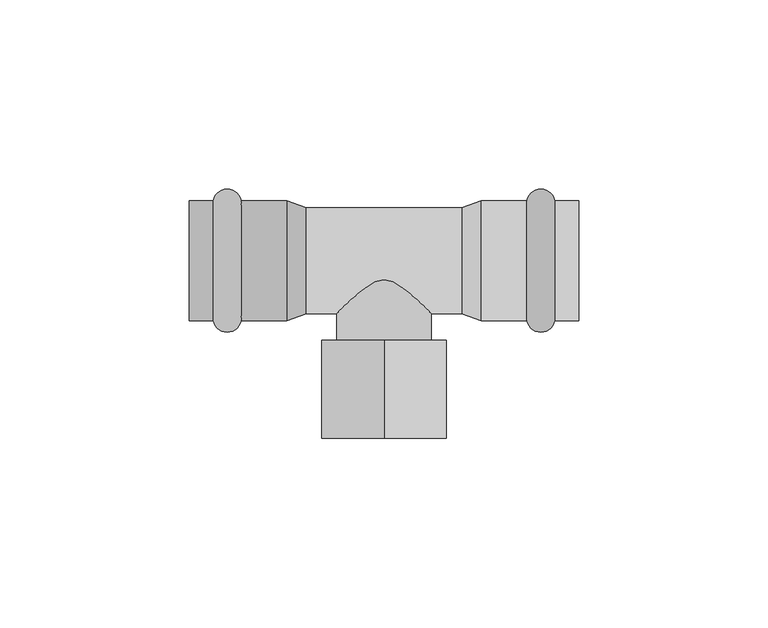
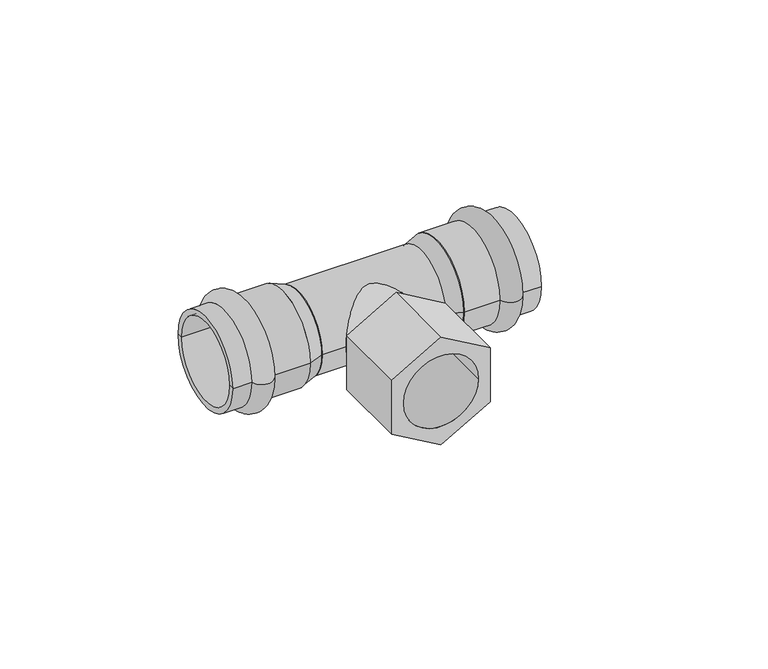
"""IFC4 building model written with IfcOpenShell, lengths in millimetres: pipe fitting geometry, VALTEC_VTi.932.I_Тройник с переходом на внутреннюю резьбу нержавеющая сталь : VTi.932.I."""

from ifc_helpers import new_model, si_unit, point, frame, origin, origin_2d, place, context, project, spatial, polyline, circle_curve, ellipse_curve, trimmed, segment, composite_curve, outline, extrude, source, transform, mapped, element, save
from ifc_brep_helpers import plane_surface, cylinder_surface, revolved_surface, advanced_brep


def pipe_fitting_f784163e(model_context):
    return source(origin(), model_context, "Body", "SolidModel", [
        advanced_brep(
        [(45.1242346, 15.9, 0.0), (45.1242346, -15.9, 0.0), (37.7757654, -15.9, 0.0), (37.7757654, 15.9, 0.0), (51.5, 15.9, 0.0), (51.5, -15.9, 0.0), (51.5, 14.0, 0.0), (51.5, -14.0, 0.0), (25.75, 14.0, 0.0), (25.75, -14.0, 0.0), (25.75, 15.9, 0.0), (25.75, -15.9, 0.0)],
        [
            (0, 1, circle_curve(frame((45.1242346, 0.0, 0.0), z_axis=(-1.0, 0.0, 0.0), x_axis=(0.0, -1.0, 0.0)), 15.9)),
            (1, 2, circle_curve(frame((41.45, -15.15, 0.0), z_axis=(0.0, 0.0, -1.0), x_axis=(-1.0, 0.0, 0.0)), 3.75)),
            (2, 3, circle_curve(frame((37.7757654, 0.0, 0.0), z_axis=(1.0, 0.0, 0.0), x_axis=(0.0, -1.0, 0.0)), 15.9)),
            (3, 0, circle_curve(frame((41.45, 15.15, 0.0), z_axis=(0.0, 0.0, -1.0), x_axis=(-1.0, 0.0, 0.0)), 3.75)),
            (1, 0, circle_curve(frame((45.1242346, 0.0, 0.0), z_axis=(-1.0, 0.0, 0.0), x_axis=(0.0, -1.0, 0.0)), 15.9)),
            (3, 2, circle_curve(frame((37.7757654, 0.0, 0.0), z_axis=(1.0, 0.0, 0.0), x_axis=(0.0, -1.0, 0.0)), 15.9)),
            (4, 5, circle_curve(frame((51.5, 0.0, 0.0), z_axis=(-1.0, 0.0, 0.0), x_axis=(0.0, -1.0, 0.0)), 15.9)),
            (5, 1),
            (0, 4),
            (5, 4, circle_curve(frame((51.5, 0.0, 0.0), z_axis=(-1.0, 0.0, 0.0), x_axis=(0.0, -1.0, 0.0)), 15.9)),
            (6, 7, circle_curve(frame((51.5, 0.0, 0.0), z_axis=(-1.0, 0.0, 0.0), x_axis=(0.0, -1.0, 0.0)), 14.0)),
            (7, 5),
            (4, 6),
            (7, 6, circle_curve(frame((51.5, 0.0, 0.0), z_axis=(-1.0, 0.0, 0.0), x_axis=(0.0, -1.0, 0.0)), 14.0)),
            (8, 9, circle_curve(frame((25.75, 0.0, 0.0), z_axis=(-1.0, 0.0, 0.0), x_axis=(0.0, -1.0, 0.0)), 14.0)),
            (9, 7),
            (6, 8),
            (9, 8, circle_curve(frame((25.75, 0.0, 0.0), z_axis=(-1.0, 0.0, 0.0), x_axis=(0.0, -1.0, 0.0)), 14.0)),
            (10, 11, circle_curve(frame((25.75, 0.0, 0.0), z_axis=(-1.0, 0.0, 0.0), x_axis=(0.0, -1.0, 0.0)), 15.9)),
            (11, 9),
            (8, 10),
            (11, 10, circle_curve(frame((25.75, 0.0, 0.0), z_axis=(-1.0, 0.0, 0.0), x_axis=(0.0, -1.0, 0.0)), 15.9)),
            (2, 11),
            (10, 3),
        ],
        [
            revolved_surface(trimmed(ellipse_curve(frame((41.45, -15.15, 0.0), z_axis=(0.0, 0.0, 1.0), x_axis=(-1.0, 0.0, 0.0)), 3.75, 3.75), [point((37.7757654, -15.9, 0.0))], [point((45.1242346, -15.9, 0.0))], True, "CARTESIAN"), (55.0364426, 0.0, 0.0), (1.0, 0.0, 0.0)),
            cylinder_surface(frame((55.0364426, 0.0, 0.0), z_axis=(1.0, 0.0, 0.0), x_axis=(0.0, -1.0, 0.0)), 15.9),
            plane_surface(frame((51.5, 0.0, 0.0), z_axis=(1.0, 0.0, 0.0), x_axis=(0.0, -1.0, 0.0))),
            revolved_surface(polyline([(51.5, -14.0, 0.0), (25.75, -14.0, 0.0)]), (55.0364426, 0.0, 0.0), (1.0, 0.0, 0.0)),
            plane_surface(frame((25.75, 0.0, 0.0), z_axis=(-1.0, 0.0, 0.0), x_axis=(0.0, -1.0, 0.0))),
        ],
        [
            (0, [[1, 2, 3, 4]]),
            (0, [[5, -4, 6, -2]]),
            (1, [[7, 8, -1, 9]]),
            (1, [[10, -9, -5, -8]]),
            (2, [[11, 12, -7, 13]]),
            (2, [[14, -13, -10, -12]]),
            (3, [[15, 16, -11, 17]]),
            (3, [[18, -17, -14, -16]]),
            (4, [[19, 20, -15, 21]]),
            (4, [[22, -21, -18, -20]]),
            (1, [[-3, 23, -19, 24]]),
            (1, [[-6, -24, -22, -23]]),
        ],
    ),
        advanced_brep(
        [(-45.1242346, -15.9, 0.0), (-45.1242346, 15.9, 0.0), (-37.7757654, 15.9, 0.0), (-37.7757654, -15.9, 0.0), (-51.5, -15.9, 0.0), (-51.5, 15.9, 0.0), (-51.5, -14.0, 0.0), (-51.5, 14.0, 0.0), (-25.75, -14.0, 0.0), (-25.75, 14.0, 0.0), (-25.75, -15.9, 0.0), (-25.75, 15.9, 0.0)],
        [
            (0, 1, circle_curve(frame((-45.1242346, 0.0, 0.0), z_axis=(1.0, 0.0, 0.0), x_axis=(0.0, 1.0, 0.0)), 15.9)),
            (1, 2, circle_curve(frame((-41.45, 15.15, 0.0), z_axis=(0.0, 0.0, -1.0), x_axis=(1.0, 0.0, 0.0)), 3.75)),
            (2, 3, circle_curve(frame((-37.7757654, 0.0, 0.0), z_axis=(-1.0, 0.0, 0.0), x_axis=(0.0, 1.0, 0.0)), 15.9)),
            (3, 0, circle_curve(frame((-41.45, -15.15, 0.0), z_axis=(0.0, 0.0, -1.0), x_axis=(1.0, 0.0, 0.0)), 3.75)),
            (1, 0, circle_curve(frame((-45.1242346, 0.0, 0.0), z_axis=(1.0, 0.0, 0.0), x_axis=(0.0, 1.0, 0.0)), 15.9)),
            (3, 2, circle_curve(frame((-37.7757654, 0.0, 0.0), z_axis=(-1.0, 0.0, 0.0), x_axis=(0.0, 1.0, 0.0)), 15.9)),
            (4, 5, circle_curve(frame((-51.5, 0.0, 0.0), z_axis=(1.0, 0.0, 0.0), x_axis=(0.0, 1.0, 0.0)), 15.9)),
            (5, 1),
            (0, 4),
            (5, 4, circle_curve(frame((-51.5, 0.0, 0.0), z_axis=(1.0, 0.0, 0.0), x_axis=(0.0, 1.0, 0.0)), 15.9)),
            (6, 7, circle_curve(frame((-51.5, 0.0, 0.0), z_axis=(1.0, 0.0, 0.0), x_axis=(0.0, 1.0, 0.0)), 14.0)),
            (7, 5),
            (4, 6),
            (7, 6, circle_curve(frame((-51.5, 0.0, 0.0), z_axis=(1.0, 0.0, 0.0), x_axis=(0.0, 1.0, 0.0)), 14.0)),
            (8, 9, circle_curve(frame((-25.75, 0.0, 0.0), z_axis=(1.0, 0.0, 0.0), x_axis=(0.0, 1.0, 0.0)), 14.0)),
            (9, 7),
            (6, 8),
            (9, 8, circle_curve(frame((-25.75, 0.0, 0.0), z_axis=(1.0, 0.0, 0.0), x_axis=(0.0, 1.0, 0.0)), 14.0)),
            (10, 11, circle_curve(frame((-25.75, 0.0, 0.0), z_axis=(1.0, 0.0, 0.0), x_axis=(0.0, 1.0, 0.0)), 15.9)),
            (11, 9),
            (8, 10),
            (11, 10, circle_curve(frame((-25.75, 0.0, 0.0), z_axis=(1.0, 0.0, 0.0), x_axis=(0.0, 1.0, 0.0)), 15.9)),
            (2, 11),
            (10, 3),
        ],
        [
            revolved_surface(trimmed(ellipse_curve(frame((-41.45, 15.15, 0.0), z_axis=(0.0, 0.0, 1.0), x_axis=(1.0, 0.0, 0.0)), 3.75, 3.75), [point((-37.7757654, 15.9, 0.0))], [point((-45.1242346, 15.9, 0.0))], True, "CARTESIAN"), (-55.0364426, 0.0, 0.0), (-1.0, 0.0, 0.0)),
            cylinder_surface(frame((-55.0364426, 0.0, 0.0), z_axis=(-1.0, 0.0, 0.0), x_axis=(0.0, 1.0, 0.0)), 15.9),
            plane_surface(frame((-51.5, 0.0, 0.0), z_axis=(-1.0, 0.0, 0.0), x_axis=(0.0, 1.0, 0.0))),
            revolved_surface(polyline([(-51.5, 14.0, 0.0), (-25.75, 14.0, 0.0)]), (-55.0364426, 0.0, 0.0), (-1.0, 0.0, 0.0)),
            plane_surface(frame((-25.75, 0.0, 0.0), z_axis=(1.0, 0.0, 0.0), x_axis=(0.0, 1.0, 0.0))),
        ],
        [
            (0, [[1, 2, 3, 4]]),
            (0, [[5, -4, 6, -2]]),
            (1, [[7, 8, -1, 9]]),
            (1, [[10, -9, -5, -8]]),
            (2, [[11, 12, -7, 13]]),
            (2, [[14, -13, -10, -12]]),
            (3, [[15, 16, -11, 17]]),
            (3, [[18, -17, -14, -16]]),
            (4, [[19, 20, -15, 21]]),
            (4, [[22, -21, -18, -20]]),
            (1, [[-3, 23, -19, 24]]),
            (1, [[-6, -24, -22, -23]]),
        ],
    ),
        extrude(outline(polyline([(19.0525589, 0.0), (9.5262794, -16.5), (-9.5262794, -16.5), (-19.0525589, 0.0), (-9.5262794, 16.5), (9.5262794, 16.5), (19.0525589, 0.0)]), holes=[composite_curve([segment(trimmed(circle_curve(origin_2d(), 12.5), [point((0.0, -12.5))], [point((0.0, 12.5))], True, "CARTESIAN"), True, "CONTINUOUS"), segment(trimmed(circle_curve(origin_2d(), 12.5), [point((0.0, 12.5))], [point((0.0, -12.5))], True, "CARTESIAN"), True, "CONTINUOUS")], self_intersect=False)]), frame((0.0, -47.0, 0.0), z_axis=(0.0, 1.0, 0.0), x_axis=(0.0, 0.0, 1.0)), (0.0, 0.0, 1.0), 26.0),
        extrude(outline(composite_curve([segment(trimmed(circle_curve(origin_2d(), 12.5), [point((0.0, -12.5))], [point((0.0, 12.5))], False, "CARTESIAN"), True, "CONTINUOUS"), segment(trimmed(circle_curve(origin_2d(), 12.5), [point((0.0, 12.5))], [point((0.0, -12.5))], False, "CARTESIAN"), True, "CONTINUOUS")], self_intersect=False)), frame((0.0, -21.0, 0.0), z_axis=(0.0, 1.0, 0.0), x_axis=(0.0, 0.0, 1.0)), (0.0, 0.0, 1.0), 21.0),
        extrude(outline(composite_curve([segment(trimmed(circle_curve(origin_2d(), 14.0), [point((-14.0, 0.0))], [point((14.0, 0.0))], False, "CARTESIAN"), True, "CONTINUOUS"), segment(trimmed(circle_curve(origin_2d(), 14.0), [point((14.0, 0.0))], [point((-14.0, 0.0))], False, "CARTESIAN"), True, "CONTINUOUS")], self_intersect=False)), frame((-20.6, 0.0, 0.0), z_axis=(1.0, 0.0, 0.0), x_axis=(0.0, 1.0, 0.0)), (0.0, 0.0, 1.0), 41.2),
        advanced_brep(
        [(25.75, -15.9, 0.0), (25.75, 15.9, 0.0), (20.6, -14.0, 0.0), (20.6, 14.0, 0.0)],
        [
            (0, 1, circle_curve(frame((25.75, 0.0, 0.0), z_axis=(1.0, 0.0, 0.0), x_axis=(0.0, -1.0, 0.0)), 15.9)),
            (1, 0, circle_curve(frame((25.75, 0.0, 0.0), z_axis=(1.0, 0.0, 0.0), x_axis=(0.0, 1.0, 0.0)), 15.9)),
            (2, 3, circle_curve(frame((20.6, 0.0, 0.0), z_axis=(-1.0, 0.0, 0.0), x_axis=(0.0, 1.0, 0.0)), 14.0)),
            (3, 2, circle_curve(frame((20.6, 0.0, 0.0), z_axis=(-1.0, 0.0, 0.0), x_axis=(0.0, -1.0, 0.0)), 14.0)),
            (3, 1),
            (0, 2),
        ],
        [
            plane_surface(frame((25.75, 0.0, 0.0), z_axis=(1.0, 0.0, 0.0), x_axis=(0.0, 0.0, 1.0))),
            plane_surface(frame((20.6, 0.0, 0.0), z_axis=(-1.0, 0.0, 0.0), x_axis=(0.0, 0.0, 1.0))),
            revolved_surface(polyline([(20.6, 13.999999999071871, 0.0), (25.75, 15.9, 0.0)]), (-17.3473684, 0.0, 0.0), (1.0, 0.0, 0.0)),
            revolved_surface(polyline([(20.6, -13.999999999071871, 0.0), (25.75, -15.9, 0.0)]), (-17.3473684, 0.0, 0.0), (1.0, 0.0, 0.0)),
        ],
        [
            (0, [[1, 2]]),
            (1, [[3, 4]]),
            (2, [[-4, 5, -1, 6]]),
            (3, [[-3, -6, -2, -5]]),
        ],
    ),
        advanced_brep(
        [(-25.75, -15.9, 0.0), (-25.75, 15.9, 0.0), (-20.6, -14.0, 0.0), (-20.6, 14.0, 0.0)],
        [
            (0, 1, circle_curve(frame((-25.75, 0.0, 0.0), z_axis=(-1.0, 0.0, 0.0), x_axis=(0.0, -1.0, 0.0)), 15.9)),
            (1, 0, circle_curve(frame((-25.75, 0.0, 0.0), z_axis=(-1.0, 0.0, 0.0), x_axis=(0.0, 1.0, 0.0)), 15.9)),
            (2, 3, circle_curve(frame((-20.6, 0.0, 0.0), z_axis=(1.0, 0.0, 0.0), x_axis=(0.0, 1.0, 0.0)), 14.0)),
            (3, 2, circle_curve(frame((-20.6, 0.0, 0.0), z_axis=(1.0, 0.0, 0.0), x_axis=(0.0, -1.0, 0.0)), 14.0)),
            (2, 0),
            (1, 3),
        ],
        [
            plane_surface(frame((-25.75, 0.0, 0.0), z_axis=(-1.0, 0.0, 0.0), x_axis=(0.0, 0.0, -1.0))),
            plane_surface(frame((-20.6, 0.0, 0.0), z_axis=(1.0, 0.0, 0.0), x_axis=(0.0, 0.0, -1.0))),
            revolved_surface(polyline([(-20.6, -13.999999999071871, 0.0), (-25.75, -15.9, 0.0)]), (17.3473684, 0.0, 0.0), (-1.0, 0.0, 0.0)),
            revolved_surface(polyline([(-20.6, 13.999999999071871, 0.0), (-25.75, 15.9, 0.0)]), (17.3473684, 0.0, 0.0), (-1.0, 0.0, 0.0)),
        ],
        [
            (0, [[1, 2]]),
            (1, [[3, 4]]),
            (2, [[-3, 5, -2, 6]]),
            (3, [[-4, -6, -1, -5]]),
        ],
    ),
    ])


if __name__ == "__main__":
    model = new_model("IFC4")
    model_context = context("Model", 3, world=origin())
    ifc_project = project(units=[si_unit("LENGTHUNIT", "METRE", prefix="MILLI")], contexts=[model_context])
    site = spatial("IfcSite", under=ifc_project)
    building = spatial("IfcBuilding", under=site)
    placement = place(None, origin())
    pipe_fitting_shape = pipe_fitting_f784163e(model_context)
    element("IfcPipeFitting", 1, ObjectType="VALTEC_VTi.932.I_Тройник с переходом на внутреннюю резьбу нержавеющая сталь : VTi.932.I", at=placement, inside=building, context=model_context, shape_type="MappedRepresentation", body=[
        mapped(pipe_fitting_shape, transform((0.0, 0.0, 0.0), x_axis=(1.0, 0.0, 0.0), y_axis=(0.0, 1.0, 0.0), z_axis=(0.0, 0.0, 1.0))),
    ])
    save(model, "model.ifc")
